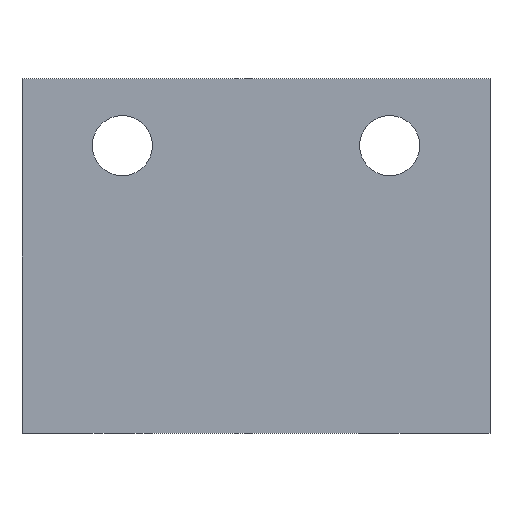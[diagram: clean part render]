
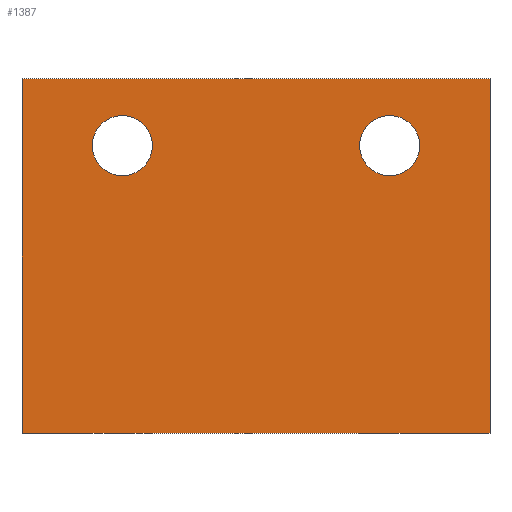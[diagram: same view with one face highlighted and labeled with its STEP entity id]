
A CAD part, front view. The second image highlights one B-rep face of the part: STEP entity #1387.
In plain terms, the highlighted planar face has unit normal (0, -1, 0).
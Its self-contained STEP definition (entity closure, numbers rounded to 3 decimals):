
#3 = CARTESIAN_POINT ( 'NONE',  ( 35., 0., 0. ) ) ;
#41 = EDGE_CURVE ( 'NONE', #1118, #1191, #1027, .T. ) ;
#66 = VECTOR ( 'NONE', #1063, 1000. ) ;
#120 = EDGE_LOOP ( 'NONE', ( #903, #754, #463, #899 ) ) ;
#222 = CARTESIAN_POINT ( 'NONE',  ( 20., 0., 43. ) ) ;
#232 = CARTESIAN_POINT ( 'NONE',  ( -35., 0., 53. ) ) ;
#240 = VECTOR ( 'NONE', #1439, 1000. ) ;
#241 = CIRCLE ( 'NONE', #653, 4.5 ) ;
#255 = EDGE_CURVE ( 'NONE', #1118, #1307, #1183, .T. ) ;
#267 = DIRECTION ( 'NONE',  ( 0., 1., 0. ) ) ;
#277 = VECTOR ( 'NONE', #399, 1000. ) ;
#279 = VERTEX_POINT ( 'NONE', #1443 ) ;
#309 = CARTESIAN_POINT ( 'NONE',  ( 35., 0., 53. ) ) ;
#317 = AXIS2_PLACEMENT_3D ( 'NONE', #222, #1054, #343 ) ;
#322 = DIRECTION ( 'NONE',  ( 0., 1., 0. ) ) ;
#338 = LINE ( 'NONE', #232, #66 ) ;
#343 = DIRECTION ( 'NONE',  ( 0., 0., 1. ) ) ;
#362 = VERTEX_POINT ( 'NONE', #879 ) ;
#385 = FACE_BOUND ( 'NONE', #1300, .T. ) ;
#386 = DIRECTION ( 'NONE',  ( 0., 0., -1. ) ) ;
#393 = VECTOR ( 'NONE', #386, 1000. ) ;
#399 = DIRECTION ( 'NONE',  ( -1., 0., 0. ) ) ;
#451 = CARTESIAN_POINT ( 'NONE',  ( -20., 0., 43. ) ) ;
#463 = ORIENTED_EDGE ( 'NONE', *, *, #41, .F. ) ;
#507 = CARTESIAN_POINT ( 'NONE',  ( -35., 0., 0. ) ) ;
#547 = VERTEX_POINT ( 'NONE', #1504 ) ;
#578 = DIRECTION ( 'NONE',  ( 0., 0., 1. ) ) ;
#599 = CARTESIAN_POINT ( 'NONE',  ( -20., 0., 43. ) ) ;
#604 = EDGE_CURVE ( 'NONE', #279, #1305, #687, .T. ) ;
#644 = CARTESIAN_POINT ( 'NONE',  ( 35., 0., 0. ) ) ;
#653 = AXIS2_PLACEMENT_3D ( 'NONE', #1034, #322, #1145 ) ;
#687 = CIRCLE ( 'NONE', #317, 4.5 ) ;
#708 = EDGE_CURVE ( 'NONE', #362, #547, #1122, .T. ) ;
#709 = FACE_OUTER_BOUND ( 'NONE', #120, .T. ) ;
#724 = DIRECTION ( 'NONE',  ( 0., 0., 1. ) ) ;
#736 = CARTESIAN_POINT ( 'NONE',  ( 20., 0., 47.5 ) ) ;
#744 = CARTESIAN_POINT ( 'NONE',  ( 35., 0., 53. ) ) ;
#754 = ORIENTED_EDGE ( 'NONE', *, *, #1495, .F. ) ;
#851 = CARTESIAN_POINT ( 'NONE',  ( -35., 0., 53. ) ) ;
#862 = AXIS2_PLACEMENT_3D ( 'NONE', #744, #267, #1098 ) ;
#879 = CARTESIAN_POINT ( 'NONE',  ( -20., 0., 47.5 ) ) ;
#899 = ORIENTED_EDGE ( 'NONE', *, *, #255, .T. ) ;
#903 = ORIENTED_EDGE ( 'NONE', *, *, #1163, .T. ) ;
#1021 = EDGE_CURVE ( 'NONE', #1305, #279, #241, .T. ) ;
#1027 = LINE ( 'NONE', #309, #393 ) ;
#1034 = CARTESIAN_POINT ( 'NONE',  ( 20., 0., 43. ) ) ;
#1054 = DIRECTION ( 'NONE',  ( 0., 1., 0. ) ) ;
#1063 = DIRECTION ( 'NONE',  ( 0., 0., -1. ) ) ;
#1080 = CIRCLE ( 'NONE', #1203, 4.5 ) ;
#1098 = DIRECTION ( 'NONE',  ( 0., 0., 1. ) ) ;
#1103 = EDGE_CURVE ( 'NONE', #547, #362, #1080, .T. ) ;
#1110 = AXIS2_PLACEMENT_3D ( 'NONE', #599, #1420, #724 ) ;
#1113 = ORIENTED_EDGE ( 'NONE', *, *, #708, .T. ) ;
#1118 = VERTEX_POINT ( 'NONE', #1523 ) ;
#1122 = CIRCLE ( 'NONE', #1110, 4.5 ) ;
#1145 = DIRECTION ( 'NONE',  ( 0., 0., 1. ) ) ;
#1163 = EDGE_CURVE ( 'NONE', #1307, #1412, #338, .T. ) ;
#1183 = LINE ( 'NONE', #1323, #240 ) ;
#1189 = ORIENTED_EDGE ( 'NONE', *, *, #604, .T. ) ;
#1191 = VERTEX_POINT ( 'NONE', #3 ) ;
#1203 = AXIS2_PLACEMENT_3D ( 'NONE', #451, #1287, #578 ) ;
#1226 = LINE ( 'NONE', #644, #277 ) ;
#1282 = ORIENTED_EDGE ( 'NONE', *, *, #1021, .T. ) ;
#1287 = DIRECTION ( 'NONE',  ( 0., 1., 0. ) ) ;
#1294 = FACE_BOUND ( 'NONE', #1487, .T. ) ;
#1300 = EDGE_LOOP ( 'NONE', ( #1113, #1320 ) ) ;
#1305 = VERTEX_POINT ( 'NONE', #736 ) ;
#1307 = VERTEX_POINT ( 'NONE', #851 ) ;
#1320 = ORIENTED_EDGE ( 'NONE', *, *, #1103, .T. ) ;
#1323 = CARTESIAN_POINT ( 'NONE',  ( 35., 0., 53. ) ) ;
#1387 = ADVANCED_FACE ( 'NONE', ( #385, #1294, #709 ), #1438, .F. ) ;
#1412 = VERTEX_POINT ( 'NONE', #507 ) ;
#1420 = DIRECTION ( 'NONE',  ( 0., 1., 0. ) ) ;
#1438 = PLANE ( 'NONE',  #862 ) ;
#1439 = DIRECTION ( 'NONE',  ( -1., 0., 0. ) ) ;
#1443 = CARTESIAN_POINT ( 'NONE',  ( 20., 0., 38.5 ) ) ;
#1487 = EDGE_LOOP ( 'NONE', ( #1282, #1189 ) ) ;
#1495 = EDGE_CURVE ( 'NONE', #1191, #1412, #1226, .T. ) ;
#1504 = CARTESIAN_POINT ( 'NONE',  ( -20., 0., 38.5 ) ) ;
#1523 = CARTESIAN_POINT ( 'NONE',  ( 35., 0., 53. ) ) ;
